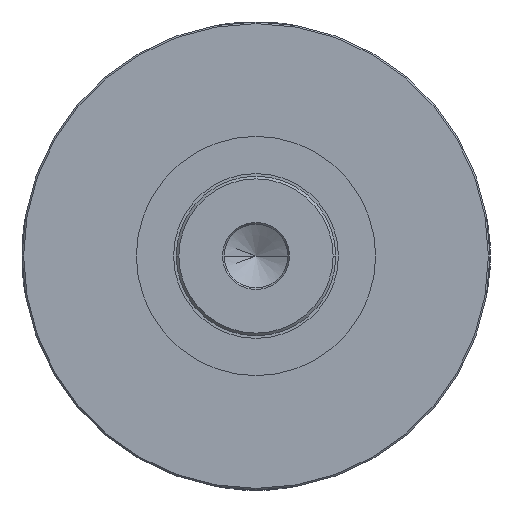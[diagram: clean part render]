
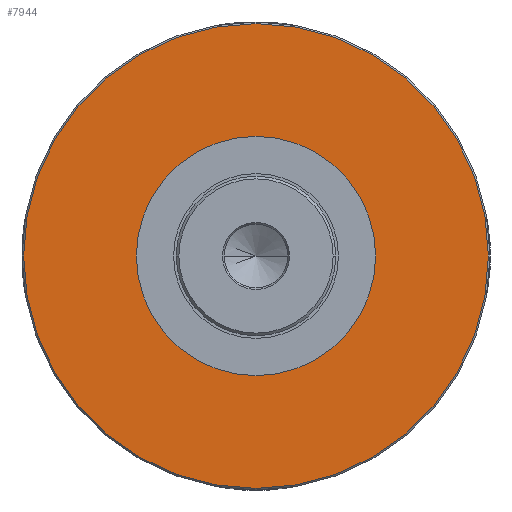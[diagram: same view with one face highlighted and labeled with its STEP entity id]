
A CAD part, left-side view. The second image highlights one B-rep face of the part: STEP entity #7944.
In plain terms, the highlighted planar face has unit normal (-1, 0, 0).
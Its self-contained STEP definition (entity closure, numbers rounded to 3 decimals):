
#7367=CARTESIAN_POINT('',(-26.5,0.,0.));
#7368=DIRECTION('',(-1.,0.,0.));
#7369=DIRECTION('',(0.,1.,0.));
#7370=AXIS2_PLACEMENT_3D('',#7367,#7368,#7369);
#7382=CARTESIAN_POINT('',(-26.5,0.,0.));
#7383=DIRECTION('',(1.,0.,0.));
#7384=DIRECTION('',(0.,1.,0.));
#7385=AXIS2_PLACEMENT_3D('',#7382,#7383,#7384);
#7397=CARTESIAN_POINT('',(-26.5,0.,0.));
#7398=DIRECTION('',(-1.,0.,0.));
#7399=DIRECTION('',(0.,1.,0.));
#7400=AXIS2_PLACEMENT_3D('',#7397,#7398,#7399);
#7405=CARTESIAN_POINT('',(-26.5,0.,0.));
#7406=DIRECTION('',(1.,0.,0.));
#7407=DIRECTION('',(0.,1.,0.));
#7408=AXIS2_PLACEMENT_3D('',#7405,#7406,#7407);
#7823=CARTESIAN_POINT('',(-26.5,22.501,0.));
#7825=VERTEX_POINT('',#7823);
#7827=CARTESIAN_POINT('',(-26.5,-22.501,0.));
#7829=VERTEX_POINT('',#7827);
#7841=CARTESIAN_POINT('',(-26.5,43.7,0.));
#7842=VERTEX_POINT('',#7841);
#7853=CARTESIAN_POINT('',(-26.5,-43.7,0.));
#7854=VERTEX_POINT('',#7853);
#7929=CARTESIAN_POINT('',(-26.5,0.,0.));
#7930=DIRECTION('',(-1.,0.,0.));
#7931=DIRECTION('',(0.,1.,0.));
#7932=AXIS2_PLACEMENT_3D('',#7929,#7930,#7931);
#7933=PLANE('',#7932);
#7935=ORIENTED_EDGE('',*,*,#7934,.F.);
#7937=ORIENTED_EDGE('',*,*,#7936,.T.);
#7938=EDGE_LOOP('',(#7935,#7937));
#7939=FACE_OUTER_BOUND('',#7938,.F.);
#7940=ORIENTED_EDGE('',*,*,#7922,.F.);
#7941=ORIENTED_EDGE('',*,*,#7911,.T.);
#7942=EDGE_LOOP('',(#7940,#7941));
#7943=FACE_BOUND('',#7942,.F.);
#7371=CIRCLE('',#7370,22.501);
#7386=CIRCLE('',#7385,22.501);
#7401=CIRCLE('',#7400,43.7);
#7409=CIRCLE('',#7408,43.7);
#7911=EDGE_CURVE('',#7825,#7829,#7371,.T.);
#7922=EDGE_CURVE('',#7825,#7829,#7386,.T.);
#7934=EDGE_CURVE('',#7842,#7854,#7401,.T.);
#7936=EDGE_CURVE('',#7842,#7854,#7409,.T.);
#7944=ADVANCED_FACE('',(#7939,#7943),#7933,.T.);
